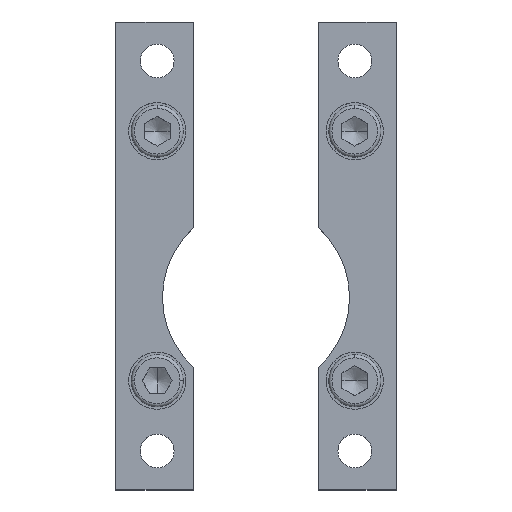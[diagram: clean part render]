
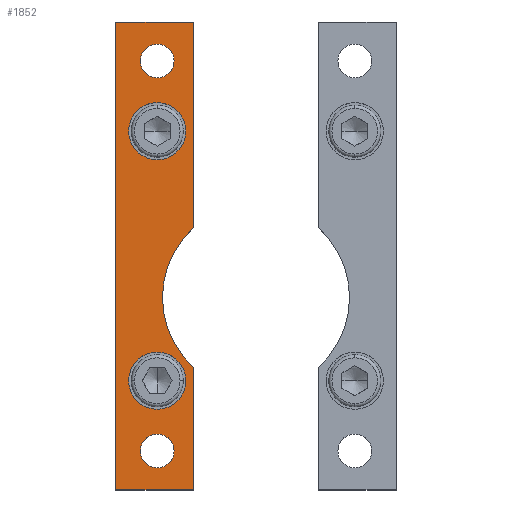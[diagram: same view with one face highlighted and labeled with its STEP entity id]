
A CAD part, top view. The second image highlights one B-rep face of the part: STEP entity #1852.
In plain terms, the highlighted planar face has unit normal (0, 0, 1).
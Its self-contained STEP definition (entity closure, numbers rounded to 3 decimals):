
#34 = CARTESIAN_POINT ( 'NONE',  ( -0.987, -0.126, 39.364 ) ) ;
#53 = VERTEX_POINT ( 'NONE', #682 ) ;
#67 = CARTESIAN_POINT ( 'NONE',  ( -19.987, -29.626, 39.364 ) ) ;
#73 = EDGE_CURVE ( 'NONE', #2359, #1067, #1346, .T. ) ;
#94 = EDGE_CURVE ( 'NONE', #3433, #53, #3233, .T. ) ;
#95 = FACE_OUTER_BOUND ( 'NONE', #2111, .T. ) ;
#117 = VERTEX_POINT ( 'NONE', #3161 ) ;
#279 = ORIENTED_EDGE ( 'NONE', *, *, #2752, .F. ) ;
#308 = AXIS2_PLACEMENT_3D ( 'NONE', #3858, #2032, #3787 ) ;
#321 = ORIENTED_EDGE ( 'NONE', *, *, #1830, .F. ) ;
#370 = VECTOR ( 'NONE', #1390, 1000. ) ;
#376 = EDGE_CURVE ( 'NONE', #738, #117, #2308, .T. ) ;
#388 = FACE_BOUND ( 'NONE', #1357, .T. ) ;
#411 = ORIENTED_EDGE ( 'NONE', *, *, #1339, .T. ) ;
#417 = CARTESIAN_POINT ( 'NONE',  ( -27.987, -37.126, 39.364 ) ) ;
#456 = FACE_BOUND ( 'NONE', #3155, .T. ) ;
#457 = LINE ( 'NONE', #2600, #370 ) ;
#466 = VERTEX_POINT ( 'NONE', #766 ) ;
#531 = VERTEX_POINT ( 'NONE', #3269 ) ;
#572 = ORIENTED_EDGE ( 'NONE', *, *, #1776, .T. ) ;
#603 = AXIS2_PLACEMENT_3D ( 'NONE', #670, #1840, #1213 ) ;
#634 = VERTEX_POINT ( 'NONE', #651 ) ;
#641 = ORIENTED_EDGE ( 'NONE', *, *, #2862, .F. ) ;
#651 = CARTESIAN_POINT ( 'NONE',  ( -27.987, -37.126, 39.364 ) ) ;
#670 = CARTESIAN_POINT ( 'NONE',  ( -19.987, -16.126, 39.364 ) ) ;
#679 = VECTOR ( 'NONE', #2202, 1000. ) ;
#682 = CARTESIAN_POINT ( 'NONE',  ( -19.987, 26.374, 39.364 ) ) ;
#738 = VERTEX_POINT ( 'NONE', #1098 ) ;
#760 = CARTESIAN_POINT ( 'NONE',  ( -19.987, 48.624, 39.364 ) ) ;
#763 = DIRECTION ( 'NONE',  ( 0., 0., -1. ) ) ;
#766 = CARTESIAN_POINT ( 'NONE',  ( -12.987, -37.126, 39.364 ) ) ;
#779 = CARTESIAN_POINT ( 'NONE',  ( -19.987, -26.376, 39.364 ) ) ;
#840 = AXIS2_PLACEMENT_3D ( 'NONE', #3706, #3783, #2226 ) ;
#863 = EDGE_CURVE ( 'NONE', #2037, #2010, #3432, .T. ) ;
#908 = ORIENTED_EDGE ( 'NONE', *, *, #3276, .F. ) ;
#929 = DIRECTION ( 'NONE',  ( 0., -1., 0. ) ) ;
#981 = DIRECTION ( 'NONE',  ( 0., 0., 1. ) ) ;
#996 = ORIENTED_EDGE ( 'NONE', *, *, #3445, .T. ) ;
#1035 = FACE_BOUND ( 'NONE', #2300, .T. ) ;
#1067 = VERTEX_POINT ( 'NONE', #3127 ) ;
#1098 = CARTESIAN_POINT ( 'NONE',  ( -12.987, -13.543, 39.364 ) ) ;
#1152 = VERTEX_POINT ( 'NONE', #3401 ) ;
#1192 = CARTESIAN_POINT ( 'NONE',  ( -19.987, -21.626, 39.364 ) ) ;
#1213 = DIRECTION ( 'NONE',  ( 0., 1., 0. ) ) ;
#1273 = ORIENTED_EDGE ( 'NONE', *, *, #3540, .T. ) ;
#1305 = DIRECTION ( 'NONE',  ( 0., 0., -1. ) ) ;
#1309 = AXIS2_PLACEMENT_3D ( 'NONE', #3674, #981, #1898 ) ;
#1316 = AXIS2_PLACEMENT_3D ( 'NONE', #67, #2480, #2174 ) ;
#1339 = EDGE_CURVE ( 'NONE', #53, #3433, #1621, .T. ) ;
#1346 = CIRCLE ( 'NONE', #3538, 5.5 ) ;
#1357 = EDGE_LOOP ( 'NONE', ( #2646, #411 ) ) ;
#1390 = DIRECTION ( 'NONE',  ( 0., -1., 0. ) ) ;
#1422 = DIRECTION ( 'NONE',  ( 0., 1., 0. ) ) ;
#1437 = AXIS2_PLACEMENT_3D ( 'NONE', #34, #1509, #929 ) ;
#1442 = DIRECTION ( 'NONE',  ( 0., 0., -1. ) ) ;
#1469 = EDGE_CURVE ( 'NONE', #1152, #117, #457, .T. ) ;
#1509 = DIRECTION ( 'NONE',  ( 0., 0., -1. ) ) ;
#1515 = DIRECTION ( 'NONE',  ( 1., 0., 0. ) ) ;
#1550 = CARTESIAN_POINT ( 'NONE',  ( -19.987, -16.126, 39.364 ) ) ;
#1584 = CARTESIAN_POINT ( 'NONE',  ( -19.987, -29.626, 39.364 ) ) ;
#1600 = CARTESIAN_POINT ( 'NONE',  ( -12.987, -37.126, 39.364 ) ) ;
#1621 = CIRCLE ( 'NONE', #2369, 5.5 ) ;
#1656 = DIRECTION ( 'NONE',  ( 0., 1., 0. ) ) ;
#1684 = VECTOR ( 'NONE', #1515, 1000. ) ;
#1695 = VERTEX_POINT ( 'NONE', #3305 ) ;
#1776 = EDGE_CURVE ( 'NONE', #531, #1943, #1987, .T. ) ;
#1830 = EDGE_CURVE ( 'NONE', #634, #1695, #3082, .T. ) ;
#1840 = DIRECTION ( 'NONE',  ( 0., 0., -1. ) ) ;
#1852 = ADVANCED_FACE ( 'NONE', ( #456, #1035, #388, #3697, #95 ), #3731, .T. ) ;
#1898 = DIRECTION ( 'NONE',  ( 0., 1., 0. ) ) ;
#1914 = CARTESIAN_POINT ( 'NONE',  ( -19.987, 31.874, 39.364 ) ) ;
#1943 = VERTEX_POINT ( 'NONE', #779 ) ;
#1987 = CIRCLE ( 'NONE', #2558, 3.25 ) ;
#1994 = CIRCLE ( 'NONE', #308, 3.25 ) ;
#2010 = VERTEX_POINT ( 'NONE', #760 ) ;
#2016 = EDGE_LOOP ( 'NONE', ( #3654, #2525 ) ) ;
#2032 = DIRECTION ( 'NONE',  ( 0., 0., -1. ) ) ;
#2037 = VERTEX_POINT ( 'NONE', #3325 ) ;
#2108 = AXIS2_PLACEMENT_3D ( 'NONE', #3550, #1442, #1422 ) ;
#2111 = EDGE_LOOP ( 'NONE', ( #2394, #2199, #908, #321, #279, #641 ) ) ;
#2157 = CARTESIAN_POINT ( 'NONE',  ( -27.987, 52.874, 39.364 ) ) ;
#2174 = DIRECTION ( 'NONE',  ( 0., 1., 0. ) ) ;
#2184 = VECTOR ( 'NONE', #3790, 1000. ) ;
#2199 = ORIENTED_EDGE ( 'NONE', *, *, #1469, .F. ) ;
#2202 = DIRECTION ( 'NONE',  ( -1., 0., 0. ) ) ;
#2226 = DIRECTION ( 'NONE',  ( 0., 1., 0. ) ) ;
#2285 = EDGE_CURVE ( 'NONE', #1067, #2359, #3804, .T. ) ;
#2300 = EDGE_LOOP ( 'NONE', ( #1273, #572 ) ) ;
#2308 = CIRCLE ( 'NONE', #1437, 18. ) ;
#2359 = VERTEX_POINT ( 'NONE', #1192 ) ;
#2369 = AXIS2_PLACEMENT_3D ( 'NONE', #1914, #763, #1656 ) ;
#2394 = ORIENTED_EDGE ( 'NONE', *, *, #376, .T. ) ;
#2446 = LINE ( 'NONE', #1600, #679 ) ;
#2480 = DIRECTION ( 'NONE',  ( 0., 0., -1. ) ) ;
#2525 = ORIENTED_EDGE ( 'NONE', *, *, #73, .T. ) ;
#2551 = LINE ( 'NONE', #3406, #2184 ) ;
#2558 = AXIS2_PLACEMENT_3D ( 'NONE', #1584, #1305, #2779 ) ;
#2588 = DIRECTION ( 'NONE',  ( 0., 1., 0. ) ) ;
#2600 = CARTESIAN_POINT ( 'NONE',  ( -12.987, 52.874, 39.364 ) ) ;
#2646 = ORIENTED_EDGE ( 'NONE', *, *, #94, .T. ) ;
#2752 = EDGE_CURVE ( 'NONE', #466, #634, #2446, .T. ) ;
#2779 = DIRECTION ( 'NONE',  ( 0., 1., 0. ) ) ;
#2858 = DIRECTION ( 'NONE',  ( 0., 0., -1. ) ) ;
#2862 = EDGE_CURVE ( 'NONE', #738, #466, #2551, .T. ) ;
#3007 = CIRCLE ( 'NONE', #1316, 3.25 ) ;
#3016 = ORIENTED_EDGE ( 'NONE', *, *, #863, .T. ) ;
#3082 = LINE ( 'NONE', #417, #3870 ) ;
#3127 = CARTESIAN_POINT ( 'NONE',  ( -19.987, -10.626, 39.364 ) ) ;
#3134 = DIRECTION ( 'NONE',  ( 0., 1., 0. ) ) ;
#3155 = EDGE_LOOP ( 'NONE', ( #996, #3016 ) ) ;
#3161 = CARTESIAN_POINT ( 'NONE',  ( -12.987, 13.29, 39.364 ) ) ;
#3233 = CIRCLE ( 'NONE', #840, 5.5 ) ;
#3269 = CARTESIAN_POINT ( 'NONE',  ( -19.987, -32.876, 39.364 ) ) ;
#3276 = EDGE_CURVE ( 'NONE', #1695, #1152, #3591, .T. ) ;
#3305 = CARTESIAN_POINT ( 'NONE',  ( -27.987, 52.874, 39.364 ) ) ;
#3325 = CARTESIAN_POINT ( 'NONE',  ( -19.987, 42.124, 39.364 ) ) ;
#3401 = CARTESIAN_POINT ( 'NONE',  ( -12.987, 52.874, 39.364 ) ) ;
#3406 = CARTESIAN_POINT ( 'NONE',  ( -12.987, 52.874, 39.364 ) ) ;
#3432 = CIRCLE ( 'NONE', #2108, 3.25 ) ;
#3433 = VERTEX_POINT ( 'NONE', #3841 ) ;
#3445 = EDGE_CURVE ( 'NONE', #2010, #2037, #1994, .T. ) ;
#3538 = AXIS2_PLACEMENT_3D ( 'NONE', #1550, #2858, #2588 ) ;
#3540 = EDGE_CURVE ( 'NONE', #1943, #531, #3007, .T. ) ;
#3550 = CARTESIAN_POINT ( 'NONE',  ( -19.987, 45.374, 39.364 ) ) ;
#3591 = LINE ( 'NONE', #2157, #1684 ) ;
#3654 = ORIENTED_EDGE ( 'NONE', *, *, #2285, .T. ) ;
#3674 = CARTESIAN_POINT ( 'NONE',  ( -20.487, 7.874, 39.364 ) ) ;
#3697 = FACE_BOUND ( 'NONE', #2016, .T. ) ;
#3706 = CARTESIAN_POINT ( 'NONE',  ( -19.987, 31.874, 39.364 ) ) ;
#3731 = PLANE ( 'NONE',  #1309 ) ;
#3783 = DIRECTION ( 'NONE',  ( 0., 0., -1. ) ) ;
#3787 = DIRECTION ( 'NONE',  ( 0., 1., 0. ) ) ;
#3790 = DIRECTION ( 'NONE',  ( 0., -1., 0. ) ) ;
#3804 = CIRCLE ( 'NONE', #603, 5.5 ) ;
#3841 = CARTESIAN_POINT ( 'NONE',  ( -19.987, 37.374, 39.364 ) ) ;
#3858 = CARTESIAN_POINT ( 'NONE',  ( -19.987, 45.374, 39.364 ) ) ;
#3870 = VECTOR ( 'NONE', #3134, 1000. ) ;
